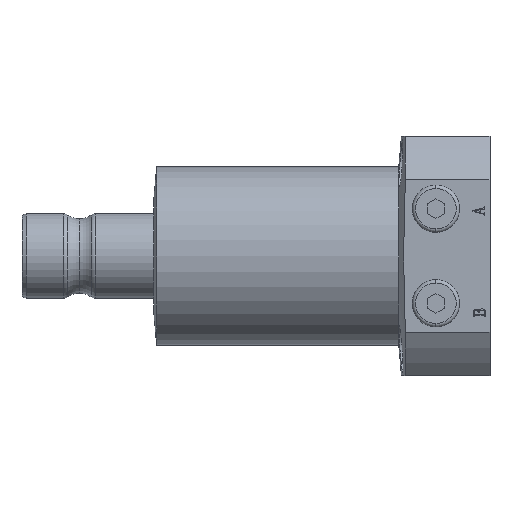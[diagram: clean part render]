
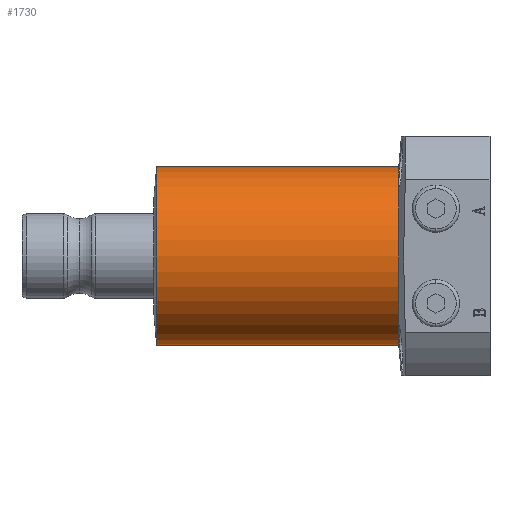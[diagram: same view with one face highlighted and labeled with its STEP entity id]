
A CAD part, left-side view. The second image highlights one B-rep face of the part: STEP entity #1730.
In plain terms, the highlighted cylindrical face has radius 26.5 mm (diameter 53 mm), a partial arc.
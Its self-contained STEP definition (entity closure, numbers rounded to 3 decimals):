
#5 = DIRECTION ( 'NONE',  ( 0., -1., 0. ) ) ;
#427 = DIRECTION ( 'NONE',  ( 0., -1., 0. ) ) ;
#443 = VERTEX_POINT ( 'NONE', #5427 ) ;
#712 = CARTESIAN_POINT ( 'NONE',  ( 0., 27., -26.5 ) ) ;
#786 = CIRCLE ( 'NONE', #5756, 26.5 ) ;
#1019 = DIRECTION ( 'NONE',  ( 0., -1., 0. ) ) ;
#1193 = CARTESIAN_POINT ( 'NONE',  ( 0., 0., -26.5 ) ) ;
#1579 = VECTOR ( 'NONE', #1668, 1000. ) ;
#1658 = VECTOR ( 'NONE', #1019, 1000. ) ;
#1668 = DIRECTION ( 'NONE',  ( 0., -1., 0. ) ) ;
#1730 = ADVANCED_FACE ( 'NONE', ( #2622 ), #2497, .T. ) ;
#2467 = CARTESIAN_POINT ( 'NONE',  ( 0., 98.647, 0. ) ) ;
#2497 = CYLINDRICAL_SURFACE ( 'NONE', #4066, 26.5 ) ;
#2622 = FACE_OUTER_BOUND ( 'NONE', #4788, .T. ) ;
#2950 = DIRECTION ( 'NONE',  ( 0., 0., -1. ) ) ;
#2978 = CARTESIAN_POINT ( 'NONE',  ( 0., 27., 0. ) ) ;
#3103 = VERTEX_POINT ( 'NONE', #4878 ) ;
#3450 = CIRCLE ( 'NONE', #5108, 26.5 ) ;
#3504 = DIRECTION ( 'NONE',  ( 0., 0., -1. ) ) ;
#3676 = VERTEX_POINT ( 'NONE', #712 ) ;
#3906 = EDGE_CURVE ( 'NONE', #6272, #3103, #5829, .T. ) ;
#4066 = AXIS2_PLACEMENT_3D ( 'NONE', #4420, #427, #5933 ) ;
#4420 = CARTESIAN_POINT ( 'NONE',  ( 0., 0., 0. ) ) ;
#4509 = CARTESIAN_POINT ( 'NONE',  ( 0., 0., 26.5 ) ) ;
#4608 = ORIENTED_EDGE ( 'NONE', *, *, #6399, .F. ) ;
#4788 = EDGE_LOOP ( 'NONE', ( #5791, #6365, #5768, #4608 ) ) ;
#4878 = CARTESIAN_POINT ( 'NONE',  ( 0., 27., 26.5 ) ) ;
#5108 = AXIS2_PLACEMENT_3D ( 'NONE', #2467, #5999, #2950 ) ;
#5365 = CARTESIAN_POINT ( 'NONE',  ( 0., 98.647, 26.5 ) ) ;
#5427 = CARTESIAN_POINT ( 'NONE',  ( 0., 98.647, -26.5 ) ) ;
#5579 = LINE ( 'NONE', #1193, #1579 ) ;
#5756 = AXIS2_PLACEMENT_3D ( 'NONE', #2978, #5, #3504 ) ;
#5768 = ORIENTED_EDGE ( 'NONE', *, *, #6174, .T. ) ;
#5791 = ORIENTED_EDGE ( 'NONE', *, *, #3906, .F. ) ;
#5829 = LINE ( 'NONE', #4509, #1658 ) ;
#5933 = DIRECTION ( 'NONE',  ( 0., 0., -1. ) ) ;
#5999 = DIRECTION ( 'NONE',  ( 0., -1., 0. ) ) ;
#6174 = EDGE_CURVE ( 'NONE', #443, #3676, #5579, .T. ) ;
#6272 = VERTEX_POINT ( 'NONE', #5365 ) ;
#6351 = EDGE_CURVE ( 'NONE', #6272, #443, #3450, .T. ) ;
#6365 = ORIENTED_EDGE ( 'NONE', *, *, #6351, .T. ) ;
#6399 = EDGE_CURVE ( 'NONE', #3103, #3676, #786, .T. ) ;
